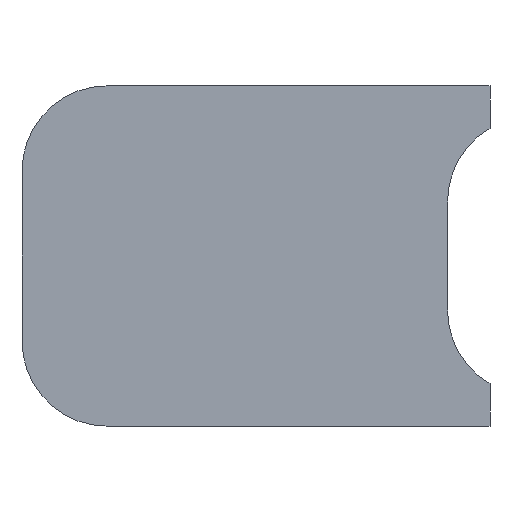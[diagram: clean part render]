
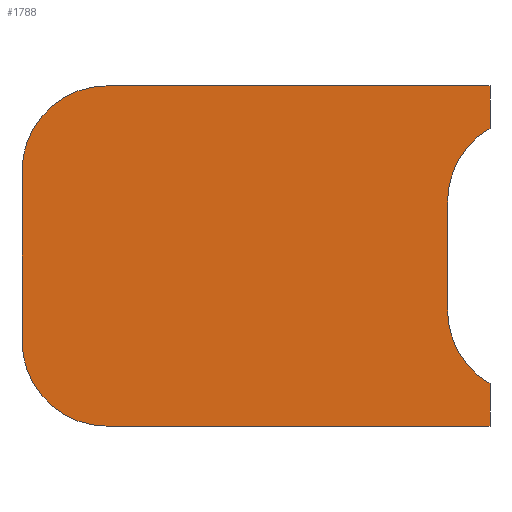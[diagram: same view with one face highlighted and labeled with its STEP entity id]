
A CAD part, left-side view. The second image highlights one B-rep face of the part: STEP entity #1788.
In plain terms, the highlighted planar face has unit normal (-1, 0, 0).
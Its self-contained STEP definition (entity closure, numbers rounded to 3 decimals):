
#147=FACE_OUTER_BOUND('',#244,.T.);
#244=EDGE_LOOP('',(#1503,#1504,#1505,#1506,#1507,#1508,#1509,#1510,#1511,
#1512));
#288=CIRCLE('',#1945,200.);
#290=CIRCLE('',#1951,200.);
#312=CIRCLE('',#2004,200.);
#313=CIRCLE('',#2006,200.);
#372=LINE('',#2699,#569);
#383=LINE('',#2724,#580);
#459=LINE('',#2932,#656);
#467=LINE('',#2946,#664);
#470=LINE('',#2952,#667);
#473=LINE('',#2957,#670);
#569=VECTOR('',#2168,10.);
#580=VECTOR('',#2189,10.);
#656=VECTOR('',#2391,10.);
#664=VECTOR('',#2407,10.);
#667=VECTOR('',#2416,10.);
#670=VECTOR('',#2423,10.);
#766=VERTEX_POINT('',#2696);
#767=VERTEX_POINT('',#2698);
#774=VERTEX_POINT('',#2714);
#776=VERTEX_POINT('',#2722);
#778=VERTEX_POINT('',#2730);
#835=VERTEX_POINT('',#2904);
#836=VERTEX_POINT('',#2906);
#837=VERTEX_POINT('',#2910);
#838=VERTEX_POINT('',#2911);
#845=VERTEX_POINT('',#2931);
#948=EDGE_CURVE('',#767,#766,#372,.T.);
#957=EDGE_CURVE('',#774,#766,#288,.T.);
#961=EDGE_CURVE('',#776,#774,#383,.T.);
#965=EDGE_CURVE('',#778,#776,#290,.T.);
#1051=EDGE_CURVE('',#836,#835,#312,.F.);
#1053=EDGE_CURVE('',#837,#838,#313,.T.);
#1063=EDGE_CURVE('',#836,#845,#459,.T.);
#1071=EDGE_CURVE('',#767,#837,#467,.T.);
#1074=EDGE_CURVE('',#835,#838,#470,.T.);
#1077=EDGE_CURVE('',#778,#845,#473,.T.);
#1503=ORIENTED_EDGE('',*,*,#965,.F.);
#1504=ORIENTED_EDGE('',*,*,#1077,.T.);
#1505=ORIENTED_EDGE('',*,*,#1063,.F.);
#1506=ORIENTED_EDGE('',*,*,#1051,.T.);
#1507=ORIENTED_EDGE('',*,*,#1074,.T.);
#1508=ORIENTED_EDGE('',*,*,#1053,.F.);
#1509=ORIENTED_EDGE('',*,*,#1071,.F.);
#1510=ORIENTED_EDGE('',*,*,#948,.T.);
#1511=ORIENTED_EDGE('',*,*,#957,.F.);
#1512=ORIENTED_EDGE('',*,*,#961,.F.);
#1704=PLANE('',#2021);
#1788=ADVANCED_FACE('',(#147),#1704,.T.);
#1945=AXIS2_PLACEMENT_3D('',#2716,#2179,#2180);
#1951=AXIS2_PLACEMENT_3D('',#2732,#2197,#2198);
#2004=AXIS2_PLACEMENT_3D('',#2907,#2367,#2368);
#2006=AXIS2_PLACEMENT_3D('',#2912,#2372,#2373);
#2021=AXIS2_PLACEMENT_3D('',#2958,#2424,#2425);
#2168=DIRECTION('',(0.,1.,0.));
#2179=DIRECTION('center_axis',(1.,0.,0.));
#2180=DIRECTION('ref_axis',(0.,0.707,0.707));
#2189=DIRECTION('',(0.,0.,1.));
#2197=DIRECTION('center_axis',(1.,0.,0.));
#2198=DIRECTION('ref_axis',(0.,0.707,-0.707));
#2367=DIRECTION('center_axis',(-1.,0.,0.));
#2368=DIRECTION('ref_axis',(0.,0.5,-0.866));
#2372=DIRECTION('center_axis',(-1.,0.,0.));
#2373=DIRECTION('ref_axis',(0.,0.5,0.866));
#2391=DIRECTION('',(0.,0.,-1.));
#2407=DIRECTION('',(0.,0.,-1.));
#2416=DIRECTION('',(0.,0.,1.));
#2423=DIRECTION('',(0.,-1.,0.));
#2424=DIRECTION('center_axis',(-1.,0.,0.));
#2425=DIRECTION('ref_axis',(0.,0.,1.));
#2696=CARTESIAN_POINT('',(-300.,800.,400.));
#2698=CARTESIAN_POINT('',(-300.,-100.,400.));
#2699=CARTESIAN_POINT('',(-300.,0.,400.));
#2714=CARTESIAN_POINT('',(-300.,1000.,200.));
#2716=CARTESIAN_POINT('Origin',(-300.,800.,200.));
#2722=CARTESIAN_POINT('',(-300.,1000.,-200.));
#2724=CARTESIAN_POINT('',(-300.,1000.,-400.));
#2730=CARTESIAN_POINT('',(-300.,800.,-400.));
#2732=CARTESIAN_POINT('Origin',(-300.,800.,-200.));
#2904=CARTESIAN_POINT('',(-300.,0.,-126.795));
#2906=CARTESIAN_POINT('',(-300.,-100.,-300.));
#2907=CARTESIAN_POINT('Origin',(-300.,-200.,-126.795));
#2910=CARTESIAN_POINT('',(-300.,-100.,300.));
#2911=CARTESIAN_POINT('',(-300.,0.,126.795));
#2912=CARTESIAN_POINT('Origin',(-300.,-200.,126.795));
#2931=CARTESIAN_POINT('',(-300.,-100.,-400.));
#2932=CARTESIAN_POINT('',(-300.,-100.,400.));
#2946=CARTESIAN_POINT('',(-300.,-100.,400.));
#2952=CARTESIAN_POINT('',(-300.,0.,-400.));
#2957=CARTESIAN_POINT('',(-300.,0.,-400.));
#2958=CARTESIAN_POINT('Origin',(-300.,0.,-400.));
